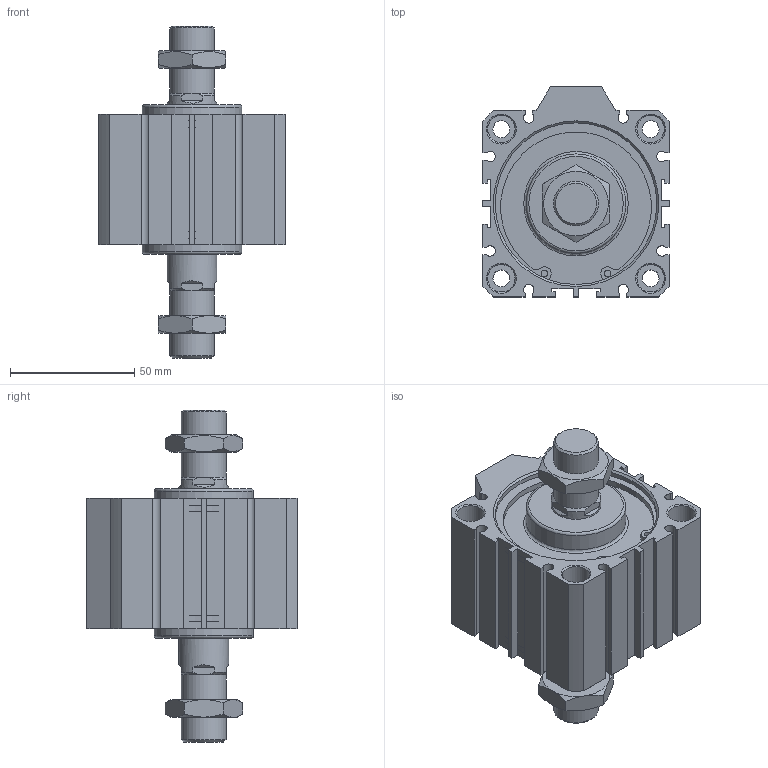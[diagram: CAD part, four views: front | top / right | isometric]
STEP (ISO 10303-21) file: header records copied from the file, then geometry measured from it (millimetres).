
FILE_DESCRIPTION((''),'2;1');
FILE_NAME('I:\3D電子目錄\氣缸\JDD\JDD-BS\JDD63-BS\JDD63x10-BS.stp','2007-02-27T15:16:05',('662F206'),(''),'Autodesk Inventor 10','Autodesk Inventor 10','');
FILE_SCHEMA(('AUTOMOTIVE_DESIGN { 1 0 10303 214 1 1 1 1 }'));
Length unit declared in the file: millimetre
Products named in the file (3): JDD63-BS; R 形環 65
Assembly tree (3 placements, depth 2):
  JDD63-BS
    JDD63-BS
    R 形環 65  x2
Bounding box: 75 x 84.5 x 133.5 mm (x, y, z)
Volume: 291471 mm3; surface area: 56318 mm2
Topology: 3 solids, 3 shells, 230 faces, 558 edges, 360 vertices
Faces by surface type: plane 132, cylinder 56, cone 38, bspline 2, torus 2
Full cylindrical faces by diameter (mm): 2.7 x4, 3 x2, 6.8 x4, 11 x8, 18 x4, 20 x2, 40 x2, 65 x4, 68 x2
Entity records: 6147 total; most frequent: CARTESIAN_POINT 1216, DIRECTION 1012, ORIENTED_EDGE 936, EDGE_CURVE 468, AXIS2_PLACEMENT_3D 374, VERTEX_POINT 332, EDGE_LOOP 308, VECTOR 264
